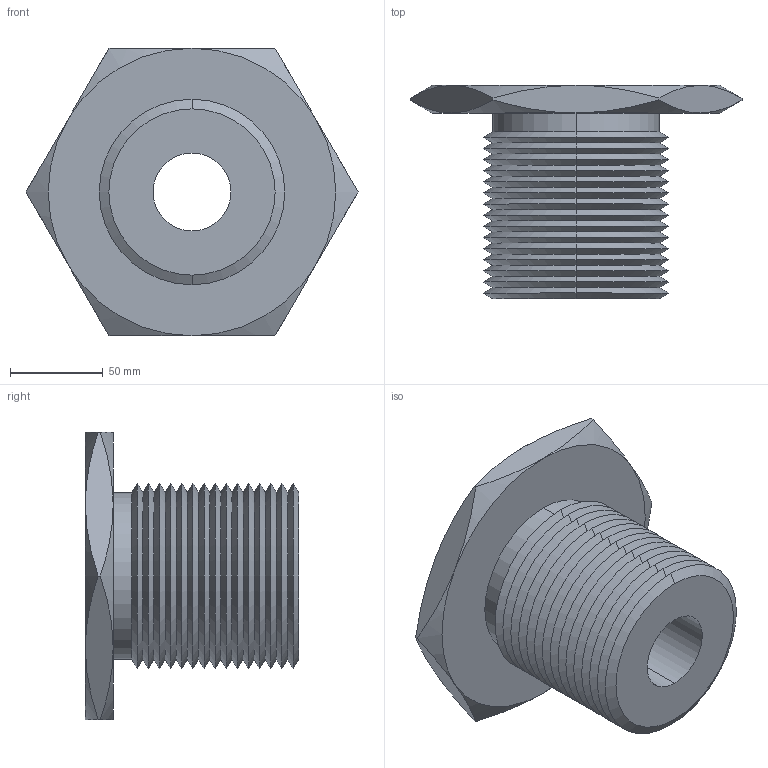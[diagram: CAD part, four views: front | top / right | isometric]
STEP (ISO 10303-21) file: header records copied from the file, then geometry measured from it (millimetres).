
FILE_DESCRIPTION (( 'STEP AP203' ), '1' );
FILE_NAME ('63302.W0100_M42x4,5.step', '2013-12-08T11:30:01', ( 'User' ), ( '' ), 'SwSTEP 2.0', 'SolidWorks 2009', '' );
FILE_SCHEMA (( 'CONFIG_CONTROL_DESIGN' ));
Length unit declared in the file: millimetre
Products named in the file (1): 63302.W0100_M42x4,5
Bounding box: 178.98 x 115 x 155 mm (x, y, z)
Volume: 842260.9 mm3; surface area: 116223.2 mm2
Topology: 1 solids, 1 shells, 87 faces, 178 edges, 94 vertices
Faces by surface type: cone 74, plane 9, cylinder 4
Entity records: 2479 total; most frequent: CARTESIAN_POINT 584, DIRECTION 412, ORIENTED_EDGE 356, EDGE_CURVE 178, AXIS2_PLACEMENT_3D 170, VERTEX_POINT 94, EDGE_LOOP 90, ADVANCED_FACE 87
